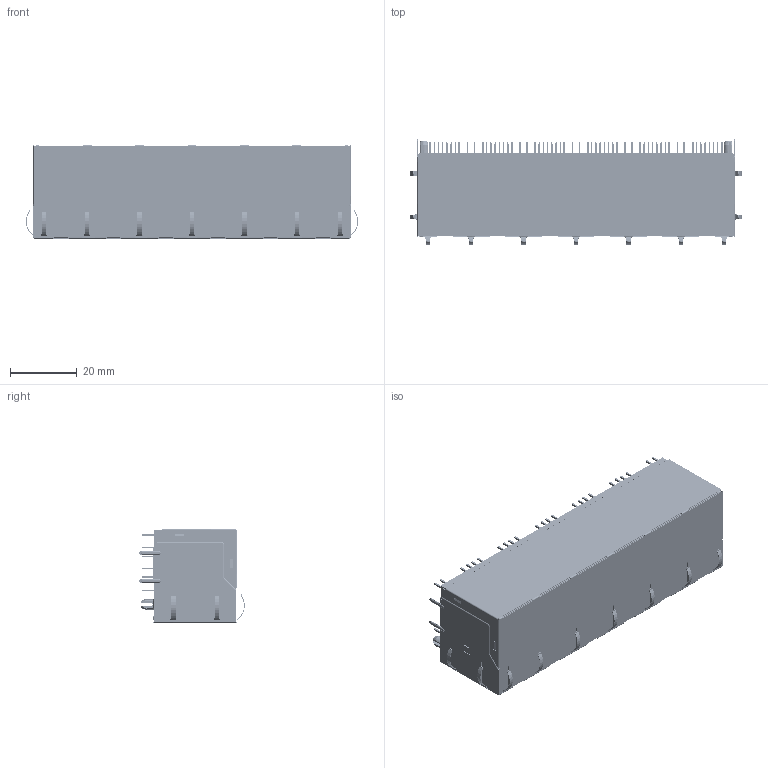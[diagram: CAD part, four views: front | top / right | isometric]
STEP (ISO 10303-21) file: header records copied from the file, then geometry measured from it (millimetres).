
FILE_DESCRIPTION((''),'2;1');
FILE_NAME('8804-2X6-10','2018-10-23T',('Administrator'),(''),'CREO PARAMETRIC BY PTC INC, 2014440','CREO PARAMETRIC BY PTC INC, 2014440','');
FILE_SCHEMA(('CONFIG_CONTROL_DESIGN'));
Products named in the file (1): 8804-2X6-10
Bounding box: 99.63 x 31.62 x 28.38 mm (x, y, z)
Volume: 35680.3 mm3; surface area: 87282.1 mm2
Topology: 1 solids, 2 shells, 12370 faces, 35695 edges, 22884 vertices
Faces by surface type: plane 9979, cylinder 1863, bspline 254, extrusion 160, sphere 48, torus 38, cone 28
Entity records: 411090 total; most frequent: CARTESIAN_POINT 85752, ORIENTED_EDGE 71386, DIRECTION 62456, EDGE_CURVE 35694, VECTOR 30348, LINE 30188, VERTEX_POINT 22884, AXIS2_PLACEMENT_3D 16054
